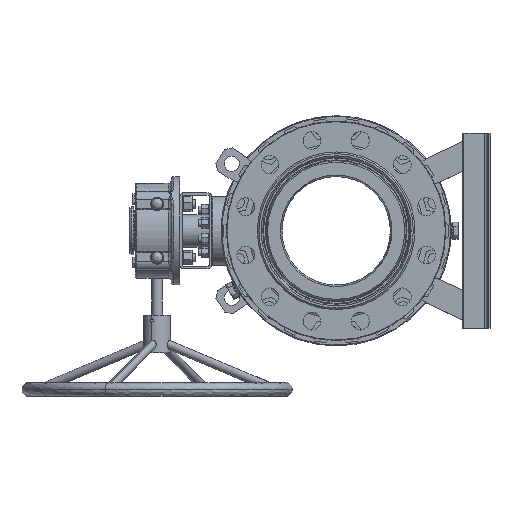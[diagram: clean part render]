
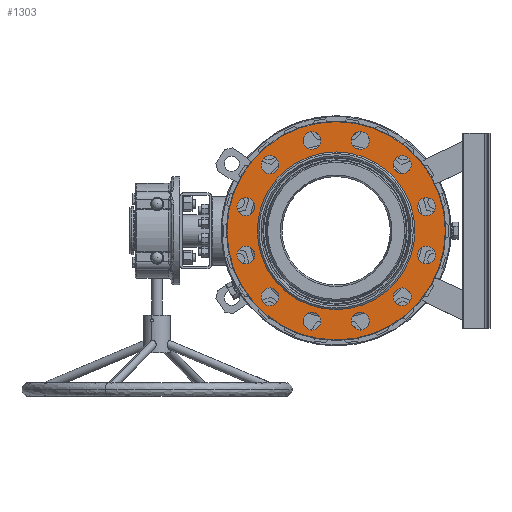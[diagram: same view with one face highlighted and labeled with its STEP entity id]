
A CAD part, left-side view. The second image highlights one B-rep face of the part: STEP entity #1303.
In plain terms, the highlighted planar face has unit normal (-1, 0, 0).
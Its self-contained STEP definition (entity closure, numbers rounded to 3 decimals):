
#1303=ADVANCED_FACE('',(#13258,#13260,#13262,#13264,#13266,#13268,#13270,#13272,
#13274,#13276,#13278,#13280,#13282,#13284),#13286,.T.);
#13258=FACE_BOUND('',#13259,.T.);
#13259=EDGE_LOOP('',(#20040));
#13260=FACE_BOUND('',#13261,.T.);
#13261=EDGE_LOOP('',(#20041));
#13262=FACE_BOUND('',#13263,.T.);
#13263=EDGE_LOOP('',(#20042));
#13264=FACE_BOUND('',#13265,.T.);
#13265=EDGE_LOOP('',(#20043));
#13266=FACE_BOUND('',#13267,.T.);
#13267=EDGE_LOOP('',(#20044));
#13268=FACE_BOUND('',#13269,.T.);
#13269=EDGE_LOOP('',(#20045));
#13270=FACE_BOUND('',#13271,.T.);
#13271=EDGE_LOOP('',(#20046));
#13272=FACE_BOUND('',#13273,.T.);
#13273=EDGE_LOOP('',(#20047));
#13274=FACE_BOUND('',#13275,.T.);
#13275=EDGE_LOOP('',(#20048));
#13276=FACE_BOUND('',#13277,.T.);
#13277=EDGE_LOOP('',(#20049));
#13278=FACE_BOUND('',#13279,.T.);
#13279=EDGE_LOOP('',(#20050));
#13280=FACE_BOUND('',#13281,.T.);
#13281=EDGE_LOOP('',(#20051));
#13282=FACE_BOUND('',#13283,.T.);
#13283=EDGE_LOOP('',(#20052));
#13284=FACE_OUTER_BOUND('',#13285,.T.);
#13285=EDGE_LOOP('',(#20053));
#13286=PLANE('',#13287);
#13287=AXIS2_PLACEMENT_3D('',#13288,#13289,#13290);
#13288=CARTESIAN_POINT('',(-295.5,0.,0.));
#13289=DIRECTION('',(-1.,0.,0.));
#13290=DIRECTION('',(-0.,-1.,0.));
#20040=ORIENTED_EDGE('',*,*,#29480,.T.);
#20041=ORIENTED_EDGE('',*,*,#29473,.T.);
#20042=ORIENTED_EDGE('',*,*,#29471,.T.);
#20043=ORIENTED_EDGE('',*,*,#29469,.T.);
#20044=ORIENTED_EDGE('',*,*,#29467,.T.);
#20045=ORIENTED_EDGE('',*,*,#29465,.T.);
#20046=ORIENTED_EDGE('',*,*,#29463,.T.);
#20047=ORIENTED_EDGE('',*,*,#29461,.T.);
#20048=ORIENTED_EDGE('',*,*,#29459,.T.);
#20049=ORIENTED_EDGE('',*,*,#29457,.T.);
#20050=ORIENTED_EDGE('',*,*,#29455,.T.);
#20051=ORIENTED_EDGE('',*,*,#29453,.T.);
#20052=ORIENTED_EDGE('',*,*,#29451,.T.);
#20053=ORIENTED_EDGE('',*,*,#29481,.F.);
#29451=EDGE_CURVE('',#38199,#38199,#38201,.F.);
#29453=EDGE_CURVE('',#38202,#38202,#38204,.F.);
#29455=EDGE_CURVE('',#38205,#38205,#38207,.F.);
#29457=EDGE_CURVE('',#38208,#38208,#38210,.F.);
#29459=EDGE_CURVE('',#38211,#38211,#38213,.F.);
#29461=EDGE_CURVE('',#38214,#38214,#38216,.F.);
#29463=EDGE_CURVE('',#38217,#38217,#38219,.F.);
#29465=EDGE_CURVE('',#38220,#38220,#38222,.F.);
#29467=EDGE_CURVE('',#38223,#38223,#38225,.F.);
#29469=EDGE_CURVE('',#38226,#38226,#38228,.F.);
#29471=EDGE_CURVE('',#38229,#38229,#38231,.F.);
#29473=EDGE_CURVE('',#38232,#38232,#38234,.F.);
#29480=EDGE_CURVE('',#38245,#38245,#38246,.T.);
#29481=EDGE_CURVE('',#38247,#38247,#38248,.T.);
#38199=VERTEX_POINT('',#62712);
#38201=CIRCLE('',#62716,16.5);
#38202=VERTEX_POINT('',#62720);
#38204=CIRCLE('',#62724,16.5);
#38205=VERTEX_POINT('',#62728);
#38207=CIRCLE('',#62732,16.5);
#38208=VERTEX_POINT('',#62736);
#38210=CIRCLE('',#62740,16.5);
#38211=VERTEX_POINT('',#62744);
#38213=CIRCLE('',#62748,16.5);
#38214=VERTEX_POINT('',#62752);
#38216=CIRCLE('',#62756,16.5);
#38217=VERTEX_POINT('',#62760);
#38219=CIRCLE('',#62764,16.5);
#38220=VERTEX_POINT('',#62768);
#38222=CIRCLE('',#62772,16.5);
#38223=VERTEX_POINT('',#62776);
#38225=CIRCLE('',#62780,16.5);
#38226=VERTEX_POINT('',#62784);
#38228=CIRCLE('',#62788,16.5);
#38229=VERTEX_POINT('',#62792);
#38231=CIRCLE('',#62796,16.5);
#38232=VERTEX_POINT('',#62800);
#38234=CIRCLE('',#62804,16.5);
#38245=VERTEX_POINT('',#62834);
#38246=CIRCLE('',#62835,145.5);
#38247=VERTEX_POINT('',#62839);
#38248=CIRCLE('',#62840,201.5);
#62712=CARTESIAN_POINT('',(-295.5,113.726,136.265));
#62716=AXIS2_PLACEMENT_3D('',#62717,#62718,#62719);
#62717=CARTESIAN_POINT('',(-295.5,121.976,121.976));
#62718=DIRECTION('',(-1.,0.,0.));
#62719=DIRECTION('',(0.,-0.5,0.866));
#62720=CARTESIAN_POINT('',(-295.5,136.265,-113.726));
#62724=AXIS2_PLACEMENT_3D('',#62725,#62726,#62727);
#62725=CARTESIAN_POINT('',(-295.5,121.976,-121.976));
#62726=DIRECTION('',(-1.,0.,0.));
#62727=DIRECTION('',(0.,0.866,0.5));
#62728=CARTESIAN_POINT('',(-295.5,166.622,61.146));
#62732=AXIS2_PLACEMENT_3D('',#62733,#62734,#62735);
#62733=CARTESIAN_POINT('',(-295.5,166.622,44.646));
#62734=DIRECTION('',(-1.,0.,0.));
#62735=DIRECTION('',(0.,0.,1.));
#62736=CARTESIAN_POINT('',(-295.5,174.872,-30.357));
#62740=AXIS2_PLACEMENT_3D('',#62741,#62742,#62743);
#62741=CARTESIAN_POINT('',(-295.5,166.622,-44.646));
#62742=DIRECTION('',(-1.,0.,0.));
#62743=DIRECTION('',(0.,0.5,0.866));
#62744=CARTESIAN_POINT('',(-295.5,61.146,-166.622));
#62748=AXIS2_PLACEMENT_3D('',#62749,#62750,#62751);
#62749=CARTESIAN_POINT('',(-295.5,44.646,-166.622));
#62750=DIRECTION('',(-1.,0.,0.));
#62751=DIRECTION('',(0.,1.,0.));
#62752=CARTESIAN_POINT('',(-295.5,-30.357,-174.872));
#62756=AXIS2_PLACEMENT_3D('',#62757,#62758,#62759);
#62757=CARTESIAN_POINT('',(-295.5,-44.646,-166.622));
#62758=DIRECTION('',(-1.,0.,0.));
#62759=DIRECTION('',(0.,0.866,-0.5));
#62760=CARTESIAN_POINT('',(-295.5,-166.622,-61.146));
#62764=AXIS2_PLACEMENT_3D('',#62765,#62766,#62767);
#62765=CARTESIAN_POINT('',(-295.5,-166.622,-44.646));
#62766=DIRECTION('',(-1.,0.,0.));
#62767=DIRECTION('',(0.,-0.,-1.));
#62768=CARTESIAN_POINT('',(-295.5,-174.872,30.357));
#62772=AXIS2_PLACEMENT_3D('',#62773,#62774,#62775);
#62773=CARTESIAN_POINT('',(-295.5,-166.622,44.646));
#62774=DIRECTION('',(-1.,0.,0.));
#62775=DIRECTION('',(0.,-0.5,-0.866));
#62776=CARTESIAN_POINT('',(-295.5,-136.265,113.726));
#62780=AXIS2_PLACEMENT_3D('',#62781,#62782,#62783);
#62781=CARTESIAN_POINT('',(-295.5,-121.976,121.976));
#62782=DIRECTION('',(-1.,0.,0.));
#62783=DIRECTION('',(0.,-0.866,-0.5));
#62784=CARTESIAN_POINT('',(-295.5,-61.146,166.622));
#62788=AXIS2_PLACEMENT_3D('',#62789,#62790,#62791);
#62789=CARTESIAN_POINT('',(-295.5,-44.646,166.622));
#62790=DIRECTION('',(-1.,0.,0.));
#62791=DIRECTION('',(-0.,-1.,0.));
#62792=CARTESIAN_POINT('',(-295.5,30.357,174.872));
#62796=AXIS2_PLACEMENT_3D('',#62797,#62798,#62799);
#62797=CARTESIAN_POINT('',(-295.5,44.646,166.622));
#62798=DIRECTION('',(-1.,0.,0.));
#62799=DIRECTION('',(0.,-0.866,0.5));
#62800=CARTESIAN_POINT('',(-295.5,-113.726,-136.265));
#62804=AXIS2_PLACEMENT_3D('',#62805,#62806,#62807);
#62805=CARTESIAN_POINT('',(-295.5,-121.976,-121.976));
#62806=DIRECTION('',(-1.,0.,0.));
#62807=DIRECTION('',(0.,0.5,-0.866));
#62834=CARTESIAN_POINT('',(-295.5,-145.5,0.));
#62835=AXIS2_PLACEMENT_3D('',#62836,#62837,#62838);
#62836=CARTESIAN_POINT('',(-295.5,0.,0.));
#62837=DIRECTION('',(1.,-0.,0.));
#62838=DIRECTION('',(-0.,-1.,0.));
#62839=CARTESIAN_POINT('',(-295.5,-201.5,0.));
#62840=AXIS2_PLACEMENT_3D('',#62841,#62842,#62843);
#62841=CARTESIAN_POINT('',(-295.5,0.,0.));
#62842=DIRECTION('',(1.,-0.,0.));
#62843=DIRECTION('',(-0.,-1.,0.));
